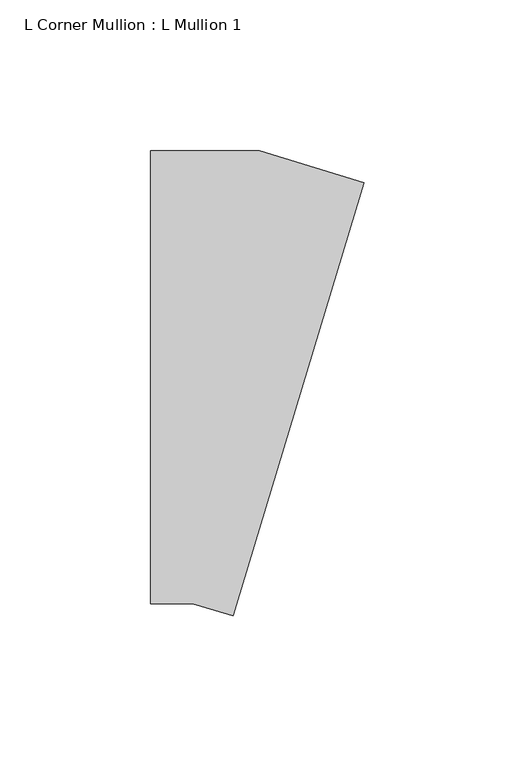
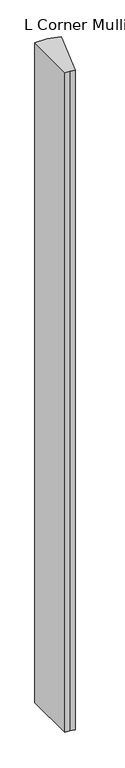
"""IFC4 building model written with IfcOpenShell, lengths in millimetres: member geometry, L Corner Mullion : L Mullion 1."""

from ifc_helpers import new_model, si_unit, frame, origin, place, context, project, spatial, polyline, outline, extrude, source, transform, mapped, element, save


def l_corner_mullion_l_mullion_1_0a483021(model_context):
    return source(origin(), model_context, "Body", "SweptSolid", [
        extrude(outline(polyline([(2.2172063, -79.0258438), (-11.0936547, -75.0), (-25.0, -75.0), (-25.0, 75.0), (11.0936547, 75.0), (45.6417413, 64.5509989), (2.2172063, -79.0258438)])), frame((0.0, 0.0, -2016.4099604), z_axis=(0.0, 0.0, 1.0), x_axis=(1.0, 0.0, 0.0)), (0.0, 0.0, 1.0), 2016.4099604),
    ])


if __name__ == "__main__":
    model = new_model("IFC4")
    model_context = context("Model", 3, world=origin())
    ifc_project = project(units=[si_unit("LENGTHUNIT", "METRE", prefix="MILLI")], contexts=[model_context])
    site = spatial("IfcSite", under=ifc_project)
    building = spatial("IfcBuilding", under=site)
    placement = place(None, origin())
    l_corner_mullion_l_mullion_1_shape = l_corner_mullion_l_mullion_1_0a483021(model_context)
    element("IfcMember", 1, ObjectType="L Corner Mullion : L Mullion 1", at=placement, inside=building, context=model_context, shape_type="MappedRepresentation", body=[
        mapped(l_corner_mullion_l_mullion_1_shape, transform((0.0, 0.0, 0.0), x_axis=(1.0, 0.0, 0.0), y_axis=(0.0, 1.0, 0.0), z_axis=(0.0, 0.0, 1.0))),
    ])
    save(model, "model.ifc")
